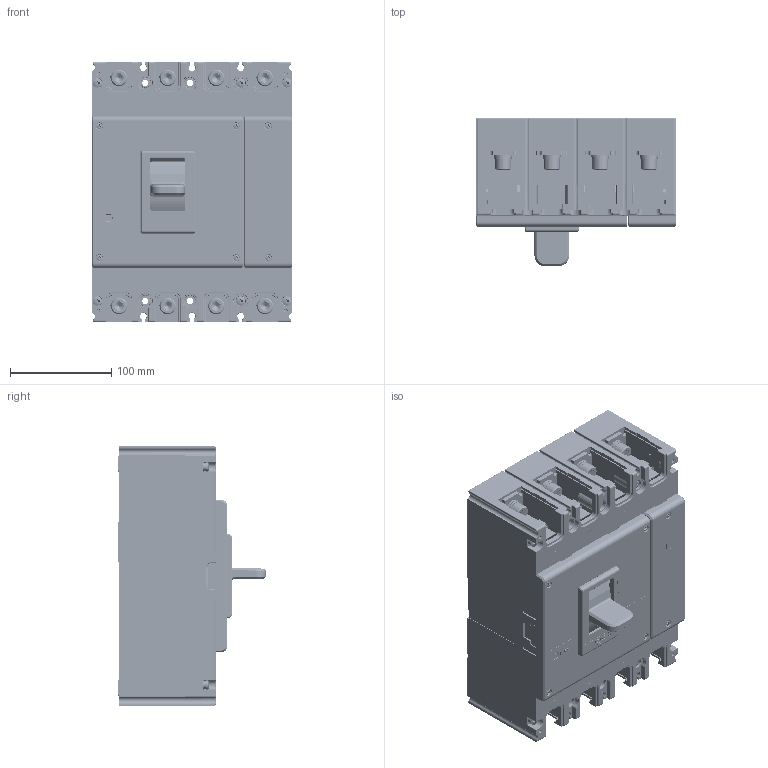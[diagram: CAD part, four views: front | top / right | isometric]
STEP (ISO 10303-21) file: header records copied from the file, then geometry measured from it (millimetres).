
FILE_DESCRIPTION((''),'2;1');
FILE_NAME('2253069200_ASM_ASM','2025-04-28T',('Administrator'),(''),'PRO/ENGINEER BY PARAMETRIC TECHNOLOGY CORPORATION, 2015440','PRO/ENGINEER BY PARAMETRIC TECHNOLOGY CORPORATION, 2015440','');
FILE_SCHEMA(('CONFIG_CONTROL_DESIGN'));
Products named in the file (49): JZ_5024058800_AF0_1; GB_T809-M5X16_1; 5024058800_AF0_ASM_1_ASM; 89400078R0_1; MANIFOLD_SOLID_BREP_135018; MANIFOLD_SOLID_BREP_135158; 8551044200_1_ASM; 5551102500_AF0_ASM_1_ASM; 5551102500_AF1_ASM_1_ASM; 5551102500_AF2_ASM_1_ASM; 8585075300_1; MANIFOLD_SOLID_BREP_138379; MANIFOLD_SOLID_BREP_138529; 8505024500_1_ASM; 8585064700_1; 5510025000_ASM_1_ASM; 8420031000_1; 5551070700_ASM_1_ASM; 5551148600_ASM_1_ASM; 5295020300_ASM_1_ASM; 8742105100_1; 8742103700_1; 8253057400_1; 8865077500_AF0_1; 8865077600_AF0_1; 5253021200_ASM_1_ASM; GZ_5315075200_1; GB_T809-M3X8_1; 5315075200_ASM_1_ASM; 8253076500_1; 8282201200_1; 5315076600_ASM_1_ASM; GB_T823-M5X35_1; 7090300501K_GB_T93_5_1; GB_T97_4_5_1; 5850007400_ASM_1_ASM; 8315095700_1; 8315095800_1; GB_T70_1-M10X25_1; GB_T9074_26-10_1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
Assembly tree (97 placements, depth 6):
  2253069200_ASM_ASM
    2253069200_ASM_1_ASM
      5295020300_ASM_1_ASM
        5024058800_AF0_ASM_1_ASM
          JZ_5024058800_AF0_1
          GB_T809-M5X16_1  x8
        89400078R0_1  x8
        5551102500_AF0_ASM_1_ASM
          8551044200_1_ASM
            MANIFOLD_SOLID_BREP_135018
            MANIFOLD_SOLID_BREP_135158
        5551102500_AF1_ASM_1_ASM
          8551044200_1_ASM
            MANIFOLD_SOLID_BREP_135018
            MANIFOLD_SOLID_BREP_135158
        5551102500_AF2_ASM_1_ASM
          8551044200_1_ASM
            MANIFOLD_SOLID_BREP_135018
            MANIFOLD_SOLID_BREP_135158
        5510025000_ASM_1_ASM
          8585075300_1
          8505024500_1_ASM  x2
            MANIFOLD_SOLID_BREP_138379
            MANIFOLD_SOLID_BREP_138529
          8585064700_1
        5551148600_ASM_1_ASM
          5551070700_ASM_1_ASM  x3
            8420031000_1
      8742105100_1  x4
      8742103700_1  x4
      5253021200_ASM_1_ASM
        8253057400_1
        8865077500_AF0_1
        8865077600_AF0_1
      5315076600_ASM_1_ASM
        5315075200_ASM_1_ASM
          GZ_5315075200_1
          GB_T809-M3X8_1  x6
        8253076500_1
        8282201200_1
      5850007400_ASM_1_ASM  x8
        GB_T823-M5X35_1
        7090300501K_GB_T93_5_1
        GB_T97_4_5_1
      8315095700_1
      8315095800_1
      58500026C0_ASM_1_ASM  x8
        GB_T70_1-M10X25_1
        GB_T9074_26-10_1
        GB_T97_4_10_1
      5850007700_ASM_1_ASM  x6
        7010100305R01_GB_T823_M3X10_1
        7090300201_GB_T93_3_1
        GB_T97_4_3_1
      8742155400_AF0_1
Bounding box: 198 x 145.9 x 257 mm (x, y, z)
Volume: 1792104.8 mm3; surface area: 900724.1 mm2
Topology: 121 solids, 185 shells, 10972 faces, 28982 edges, 18353 vertices
Faces by surface type: plane 5984, cylinder 3224, torus 560, cone 519, sphere 268, extrusion 221, bspline 196
Entity records: 308547 total; most frequent: CARTESIAN_POINT 73213, ORIENTED_EDGE 49600, DIRECTION 48265, EDGE_CURVE 24834, VECTOR 17197, LINE 16976, VERTEX_POINT 15906, AXIS2_PLACEMENT_3D 15534
